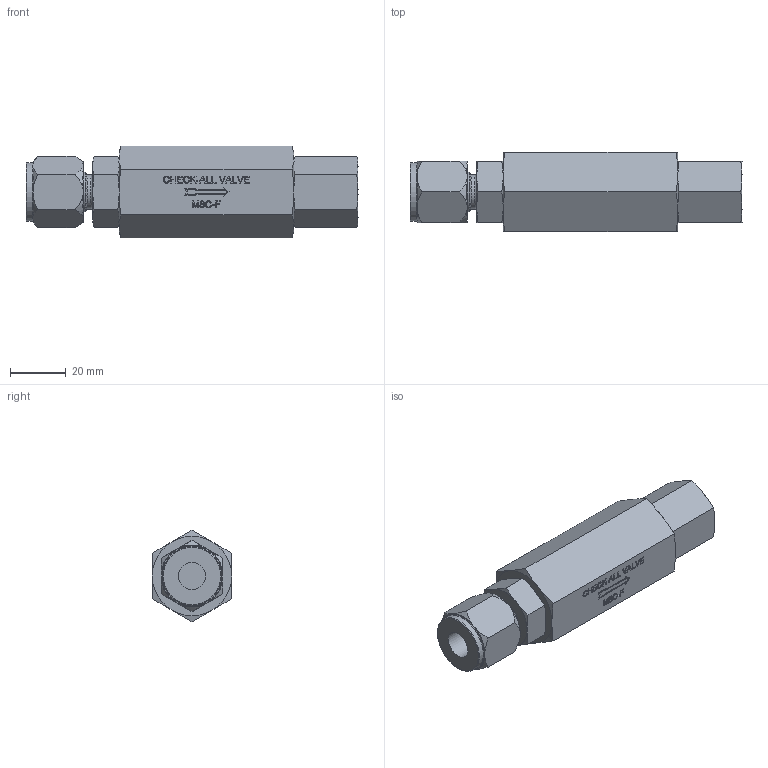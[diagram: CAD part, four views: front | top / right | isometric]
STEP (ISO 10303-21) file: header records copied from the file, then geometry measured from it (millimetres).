
FILE_DESCRIPTION( ( 'Unknown' ), '1' );
FILE_NAME( 'Y:/ENGR/3D Solid Edge Models/M(1-8)/M8/stp/M6C-F.stp', 'Unknown', ( 'Unknown' ), ( 'Unknown' ), 'PSStep 16.0.42', 'Unknown', ' ' );
FILE_SCHEMA( ( 'AUTOMOTIVE_DESIGN { 1 0 10303 214 1 1 1 1 }' ) );
Length unit declared in the file: millimetre
Products named in the file (1): 5026c (Nut)
Bounding box: 119.53 x 28.57 x 33 mm (x, y, z)
Volume: 63047.2 mm3; surface area: 14146.4 mm2
Topology: 1 solids, 1 shells, 412 faces, 1058 edges, 656 vertices
Faces by surface type: extrusion 149, plane 82, cylinder 58, cone 54, torus 42, bspline 27
Full cylindrical faces by diameter (mm): 9.804 x1, 12.243 x1, 14.287 x1, 14.684 x5, 21.209 x1
Entity records: 20940 total; most frequent: CARTESIAN_POINT 8859, ORIENTED_EDGE 1988, DIRECTION 1395, EDGE_CURVE 994, VERTEX_POINT 638, B_SPLINE_CURVE_WITH_KNOTS 563, VECTOR 525, EDGE_LOOP 454
